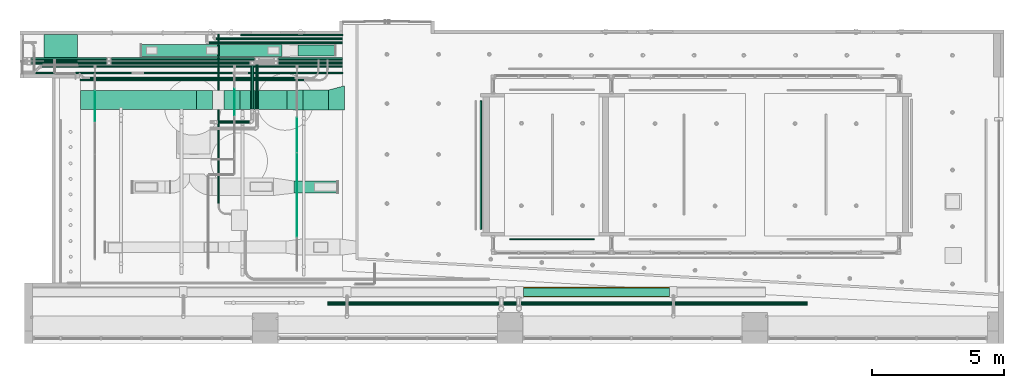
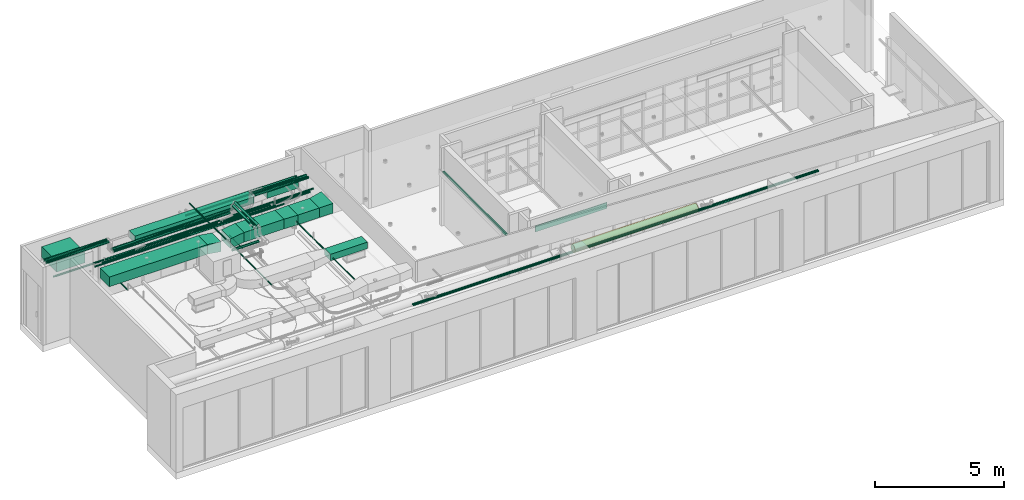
# One storey, part 31 of 108: 23 pipe segments, 7 duct segments, 6 cable carrier segments, 4 duct fittings, 1 air terminal, 1 covering, 1 light fixture.
"""IFC4 building model written with IfcOpenShell, lengths in feet."""

from ifc_helpers import new_model, entity, si_unit, converted_unit, derived_unit, direction, frame, frame_2d, origin, origin_2d_with_axis, place, context, subcontext, project, spatial, polyline, rectangle, circle, outline, extrude, source, transform, mapped, material, constituent, constituent_set, type_object, type_shapes, element, aggregate, save


model = new_model("IFC4")

# Units and contexts
model_context = context("Model", 3, precision=0.0001, world=origin(), true_north=direction((6.12303176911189e-17, 1.0)))
body_context = subcontext(model_context, "Body", "Model", "MODEL_VIEW")
ifc_project = project(units=[converted_unit("LENGTHUNIT", "FOOT", entity("IfcRatioMeasure", 0.3048), si_unit("LENGTHUNIT", "METRE"), dimensions=[1, 0, 0, 0, 0, 0, 0]), converted_unit("AREAUNIT", "SQUARE FOOT", entity("IfcRatioMeasure", 0.09290304), si_unit("AREAUNIT", "SQUARE_METRE"), dimensions=[2, 0, 0, 0, 0, 0, 0]), converted_unit("VOLUMEUNIT", "CUBIC FOOT", entity("IfcRatioMeasure", 0.028316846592), si_unit("VOLUMEUNIT", "CUBIC_METRE"), dimensions=[3, 0, 0, 0, 0, 0, 0]), converted_unit("PLANEANGLEUNIT", "DEGREE", entity("IfcRatioMeasure", 0.0174532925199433), si_unit("PLANEANGLEUNIT", "RADIAN"), dimensions=[0, 0, 0, 0, 0, 0, 0]), si_unit("MASSUNIT", "GRAM", prefix="KILO"), derived_unit("MASSDENSITYUNIT", [(si_unit("MASSUNIT", "GRAM", prefix="KILO"), 1), (si_unit("LENGTHUNIT", "METRE"), -3)]), si_unit("TIMEUNIT", "SECOND"), si_unit("FREQUENCYUNIT", "HERTZ"), si_unit("THERMODYNAMICTEMPERATUREUNIT", "DEGREE_CELSIUS"), derived_unit("THERMALTRANSMITTANCEUNIT", [(si_unit("MASSUNIT", "GRAM", prefix="KILO"), 1), (si_unit("THERMODYNAMICTEMPERATUREUNIT", "KELVIN"), -1), (si_unit("TIMEUNIT", "SECOND"), -3)]), derived_unit("VOLUMETRICFLOWRATEUNIT", [(si_unit("LENGTHUNIT", "METRE"), 3), (si_unit("TIMEUNIT", "SECOND"), -1)]), si_unit("ELECTRICCURRENTUNIT", "AMPERE"), si_unit("ELECTRICVOLTAGEUNIT", "VOLT"), si_unit("POWERUNIT", "WATT"), si_unit("FORCEUNIT", "NEWTON"), si_unit("ILLUMINANCEUNIT", "LUX"), si_unit("LUMINOUSFLUXUNIT", "LUMEN"), si_unit("LUMINOUSINTENSITYUNIT", "CANDELA"), derived_unit("USERDEFINED", [(si_unit("MASSUNIT", "GRAM", prefix="KILO"), -1), (si_unit("LENGTHUNIT", "METRE"), -2), (si_unit("TIMEUNIT", "SECOND"), 3), (si_unit("LUMINOUSFLUXUNIT", "LUMEN"), 1)]), derived_unit("LINEARVELOCITYUNIT", [(si_unit("LENGTHUNIT", "METRE"), 1), (si_unit("TIMEUNIT", "SECOND"), -1)]), si_unit("PRESSUREUNIT", "PASCAL"), derived_unit("USERDEFINED", [(si_unit("LENGTHUNIT", "METRE"), -2), (si_unit("MASSUNIT", "GRAM", prefix="KILO"), 1), (si_unit("TIMEUNIT", "SECOND"), -2)])], contexts=[model_context])

# Covering
site_placement = place(None, origin())
building_placement = place(site_placement, origin())
storey_placement = place(building_placement, frame((0.0, 0.0, 168.0)))
covering_placement = place(storey_placement, frame((2.31025946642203, -17.3700330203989, 8.71351616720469)))
covering = element("IfcCovering", 1, at=covering_placement, Name="Pipe Insulation:Default", ObjectType="Pipe Insulation:Default", PredefinedType="INSULATION", context=body_context, shape_type="SweptSolid", body=[
    extrude(circle(Radius=0.614583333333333, at=frame_2d((0.0, 2.8421709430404e-14), x_axis=(1.0, 0.0))), frame((0.0, 0.619817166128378, 0.619817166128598), z_axis=(1.0, 0.0, 0.0), x_axis=(0.0, 1.0, 0.0)), (0.0, 0.0, 1.0), 18.10328125),
])

# Site, building, storey
site = spatial("IfcSite", under=ifc_project, at=site_placement, Name="Default", CompositionType="ELEMENT")
building = spatial("IfcBuilding", under=site, at=building_placement, CompositionType="ELEMENT")
storey = spatial("IfcBuildingStorey", under=building, at=storey_placement, Name="Level 15", CompositionType="ELEMENT", Elevation=168.0)

# Light fixture
ifc_material_1 = material(Name="Glass, White, High Luminance", Category="Glass")
ifc_constituent_1 = constituent(ifc_material_1, Name="Glass, White, High Luminance", Category="Materials")
ifc_material_2 = material(Name="Steel, Paint Finish, Ivory, Glossy", Category="Metal")
ifc_constituent_2 = constituent(ifc_material_2, Name="Steel, Paint Finish, Ivory, Glossy", Category="Materials")
ifc_constituent_set_1 = constituent_set(constituents=[ifc_constituent_1, ifc_constituent_2], Name="MaterialConstituentSet")
ifc_constituent_3 = constituent(ifc_material_1, Name="Glass, White, High Luminance", Category="Materials")
ifc_constituent_4 = constituent(ifc_material_2, Name="Steel, Paint Finish, Ivory, Glossy", Category="Materials")
ifc_constituent_set_2 = constituent_set(constituents=[ifc_constituent_3, ifc_constituent_4], Name="MaterialConstituentSet")
light_fixture_type = type_object("IfcLightFixtureType", Name="16'", PredefinedType="NOTDEFINED", material=ifc_constituent_set_2)
shared_shape_1 = source(origin(), body_context, "Body", "SweptSolid", [
    extrude(rectangle(XDim=15.9166666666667, YDim=0.166666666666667, at=origin_2d_with_axis()), frame((8.0, 0.124999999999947, 0.0), z_axis=(0.0, 0.0, 1.0), x_axis=(-1.0, 0.0, 0.0)), (0.0, 0.0, 1.0), 0.0208333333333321),
    extrude(outline(polyline([(-8.0, -0.125000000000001), (8.0, -0.125000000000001), (8.0, 0.125000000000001), (-8.0, 0.125000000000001), (-8.0, -0.125000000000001)]), holes=[polyline([(-7.95833333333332, -0.0833333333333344), (-7.95833333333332, 0.0833333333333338), (7.95833333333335, 0.0833333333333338), (7.95833333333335, -0.0833333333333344), (-7.95833333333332, -0.0833333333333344)])]), frame((8.0, 0.125000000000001, 0.0), z_axis=(0.0, 0.0, 1.0), x_axis=(-1.0, 0.0, 0.0)), (0.0, 0.0, 1.0), 0.291666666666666),
])
type_shapes(light_fixture_type, [shared_shape_1])
light_fixture_placement = place(storey_placement, frame((-2.83510993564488, -9.02036220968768, 8.5), z_axis=(0.0, 0.0, 1.0), x_axis=(0.0, 1.0, 0.0)))
element("IfcLightFixture", 2, at=light_fixture_placement, inside=storey, type_object=light_fixture_type, material=ifc_constituent_set_1, Name="Ceiling Light - Linear Box:16'", ObjectType="Ceiling Light - Linear Box:16'", PredefinedType="NOTDEFINED", context=body_context, shape_type="MappedRepresentation", body=[
    mapped(shared_shape_1, transform((0.0, 0.0, 0.0), scale=1.0)),
])

# Duct segments
duct_segment_type = type_object("IfcDuctSegmentType", Name="Rectangular Duct:Square Throat Elbows / S&D", PredefinedType="NOTDEFINED")
duct_segment_1_placement = place(storey_placement, frame((-26.1423457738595, -4.48329294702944, 9.91666666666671)))
element("IfcDuctSegment", 3, at=duct_segment_1_placement, inside=storey, type_object=duct_segment_type, Name="Rectangular Duct:Square Throat Elbows / S&D", ObjectType="Rectangular Duct:Square Throat Elbows / S&D", PredefinedType="NOTDEFINED", context=body_context, shape_type="SweptSolid", body=[
    extrude(rectangle(XDim=5.40534840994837, YDim=1.5, at=frame_2d((0.0, 2.22044604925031e-16), x_axis=(1.0, 0.0))), frame((2.70267420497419, 0.750000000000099, 0.0)), (0.0, 0.0, 1.0), 1.0),
])
duct_segment_2_placement = place(storey_placement, frame((-25.6133537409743, 12.5262257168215, 9.0833333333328)))
element("IfcDuctSegment", 4, at=duct_segment_2_placement, inside=storey, type_object=duct_segment_type, Name="Rectangular Duct:Square Throat Elbows / S&D", ObjectType="Rectangular Duct:Square Throat Elbows / S&D", PredefinedType="NOTDEFINED", context=body_context, shape_type="SweptSolid", body=[
    extrude(rectangle(XDim=4.58416666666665, YDim=1.33333333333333, at=frame_2d((-1.77635683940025e-15, -1.77635683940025e-15), x_axis=(1.0, 0.0))), frame((2.29208333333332, 0.666666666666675, 0.0)), (0.0, 0.0, 1.0), 1.0),
])
duct_segment_3_placement = place(storey_placement, frame((-45.0291870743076, 12.4428923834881, 9.083333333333)))
element("IfcDuctSegment", 5, at=duct_segment_3_placement, inside=storey, type_object=duct_segment_type, Name="Rectangular Duct:Square Throat Elbows / S&D", ObjectType="Rectangular Duct:Square Throat Elbows / S&D", PredefinedType="NOTDEFINED", context=body_context, shape_type="SweptSolid", body=[
    extrude(rectangle(XDim=17.4158333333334, YDim=1.5, at=frame_2d((-1.77635683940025e-15, -8.88178419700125e-16), x_axis=(1.0, 0.0))), frame((8.70791666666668, 0.750000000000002, 0.0)), (0.0, 0.0, 1.0), 1.0),
])
duct_segment_4_placement = place(storey_placement, frame((-32.8315243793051, 5.8765573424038, 8.87500000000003)))
element("IfcDuctSegment", 6, at=duct_segment_4_placement, inside=storey, type_object=duct_segment_type, Name="Rectangular Duct:Square Throat Elbows / S&D", ObjectType="Rectangular Duct:Square Throat Elbows / S&D", PredefinedType="NOTDEFINED", context=body_context, shape_type="SweptSolid", body=[
    extrude(rectangle(XDim=5.8477178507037, YDim=2.33333333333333, at=frame_2d((-1.77635683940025e-15, 0.0), x_axis=(1.0, 0.0))), frame((2.92385892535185, 1.16666666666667, 0.0)), (0.0, 0.0, 1.0), 1.5),
])
duct_segment_5_placement = place(storey_placement, frame((-24.9838065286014, 5.79322400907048, 8.87499999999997)))
element("IfcDuctSegment", 7, at=duct_segment_5_placement, inside=storey, type_object=duct_segment_type, Name="Rectangular Duct:Square Throat Elbows / S&D", ObjectType="Rectangular Duct:Square Throat Elbows / S&D", PredefinedType="NOTDEFINED", context=body_context, shape_type="SweptSolid", body=[
    extrude(rectangle(XDim=3.1456331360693, YDim=2.5, at=frame_2d((1.77635683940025e-15, 0.0), x_axis=(1.0, 0.0))), frame((1.57281656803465, 1.25000000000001, 0.0)), (0.0, 0.0, 1.0), 1.5),
])
duct_segment_6_placement = place(storey_placement, frame((-52.6148461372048, 5.87655734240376, 8.875)))
element("IfcDuctSegment", 8, at=duct_segment_6_placement, inside=storey, type_object=duct_segment_type, Name="Rectangular Duct:Square Throat Elbows / S&D", ObjectType="Rectangular Duct:Square Throat Elbows / S&D", PredefinedType="NOTDEFINED", context=body_context, shape_type="SweptSolid", body=[
    extrude(rectangle(XDim=14.3980481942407, YDim=2.33333333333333, at=frame_2d((-3.5527136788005e-15, 0.0), x_axis=(1.0, 0.0))), frame((7.19902409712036, 1.16666666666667, 0.0)), (0.0, 0.0, 1.0), 1.5),
])
duct_segment_7_placement = place(storey_placement, frame((-57.1431808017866, 11.4209780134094, 9.37500000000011)))
element("IfcDuctSegment", 9, at=duct_segment_7_placement, inside=storey, type_object=duct_segment_type, Name="Rectangular Duct:Square Throat Elbows / S&D", ObjectType="Rectangular Duct:Square Throat Elbows / S&D", PredefinedType="NOTDEFINED", context=body_context, shape_type="SweptSolid", body=[
    extrude(rectangle(XDim=3.78062976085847, YDim=4.16666666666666, at=frame_2d((-8.88178419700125e-16, -3.5527136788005e-15), x_axis=(1.0, 0.0))), frame((2.08333333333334, 1.89031488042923, 0.0), z_axis=(0.0, 0.0, 1.0), x_axis=(0.0, -1.0, 0.0)), (0.0, 0.0, 1.0), 1.66666666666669),
])

# Pipe segments
pipe_segment_type_1 = type_object("IfcPipeSegmentType", Name="Pipe Types:Fire Prot Sched 10 Main", PredefinedType="NOTDEFINED")
pipe_segment_1_placement = place(storey_placement, frame((-25.594055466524, 11.0632337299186, 8.84893283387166)))
element("IfcPipeSegment", 10, at=pipe_segment_1_placement, inside=storey, type_object=pipe_segment_type_1, Name="Pipe Types:Fire Prot Sched 10 Main", ObjectType="Pipe Types:Fire Prot Sched 10 Main", PredefinedType="NOTDEFINED", context=body_context, shape_type="SweptSolid", body=[
    extrude(circle(Radius=0.145833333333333, at=frame_2d((0.0, 2.8421709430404e-14), x_axis=(1.0, 0.0))), frame((0.0, 0.151067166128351, 0.151067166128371), z_axis=(1.0, 0.0, 0.0), x_axis=(0.0, -1.0, 0.0)), (0.0, 0.0, 1.0), 5.50588207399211),
])
pipe_segment_2_placement = place(storey_placement, frame((-50.8574057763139, 4.40596683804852, 8.60664116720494)))
element("IfcPipeSegment", 11, at=pipe_segment_2_placement, inside=storey, type_object=pipe_segment_type_1, Name="Pipe Types:Fire Prot Sched 10 Main", ObjectType="Pipe Types:Fire Prot Sched 10 Main", PredefinedType="NOTDEFINED", context=body_context, shape_type="SweptSolid", body=[
    extrude(circle(Radius=0.0547916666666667, at=frame_2d((-8.19688726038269e-43, -2.8421709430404e-14), x_axis=(1.0, 0.0))), frame((0.0600254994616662, 0.0, 0.0600254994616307), z_axis=(0.0, 1.0, 0.0), x_axis=(1.0, 0.0, 0.0)), (0.0, 0.0, 1.0), 3.79924479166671),
])
pipe_segment_3_placement = place(storey_placement, frame((-57.3333965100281, 11.0632337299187, 8.84893283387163)))
element("IfcPipeSegment", 12, at=pipe_segment_3_placement, inside=storey, type_object=pipe_segment_type_1, Name="Pipe Types:Fire Prot Sched 10 Main", ObjectType="Pipe Types:Fire Prot Sched 10 Main", PredefinedType="NOTDEFINED", context=body_context, shape_type="SweptSolid", body=[
    extrude(circle(Radius=0.145833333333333, at=frame_2d((-1.03028696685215e-13, 0.0), x_axis=(1.0, 0.0))), frame((0.0, 0.151067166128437, 0.151067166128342), z_axis=(1.0, 0.0, 0.0), x_axis=(0.0, 1.0, 0.0)), (0.0, 0.0, 1.0), 6.36934956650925),
])
pipe_segment_4_placement = place(storey_placement, frame((-33.5674577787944, 5.13596450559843, 8.54414116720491)))
element("IfcPipeSegment", 13, at=pipe_segment_4_placement, inside=storey, type_object=pipe_segment_type_1, Name="Pipe Types:Fire Prot Sched 10 Main", ObjectType="Pipe Types:Fire Prot Sched 10 Main", PredefinedType="NOTDEFINED", context=body_context, shape_type="SweptSolid", body=[
    extrude(circle(Radius=0.0547916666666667, at=origin_2d_with_axis()), frame((0.0600254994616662, 0.0, 0.0600254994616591), z_axis=(0.0, 1.0, 0.0), x_axis=(1.0, 0.0, 0.0)), (0.0, 0.0, 1.0), 3.3400804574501),
])
pipe_segment_5_placement = place(storey_placement, frame((-25.8207476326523, 0.6234065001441, 10.1483078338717)))
element("IfcPipeSegment", 14, at=pipe_segment_5_placement, inside=storey, type_object=pipe_segment_type_1, Name="Pipe Types:Fire Prot Sched 10 Main", ObjectType="Pipe Types:Fire Prot Sched 10 Main", PredefinedType="NOTDEFINED", context=body_context, shape_type="SweptSolid", body=[
    extrude(circle(Radius=0.0547916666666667, at=origin_2d_with_axis()), frame((0.0600254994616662, 0.0, 0.0600254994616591), z_axis=(0.0, 1.0, 0.0), x_axis=(-1.0, 0.0, 0.0)), (0.0, 0.0, 1.0), 4.22972554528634),
])
pipe_segment_6_placement = place(storey_placement, frame((-25.8207476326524, -9.88853942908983, 10.1483078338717)))
element("IfcPipeSegment", 15, at=pipe_segment_6_placement, inside=storey, type_object=pipe_segment_type_1, Name="Pipe Types:Fire Prot Sched 10 Main", ObjectType="Pipe Types:Fire Prot Sched 10 Main", PredefinedType="NOTDEFINED", context=body_context, shape_type="SweptSolid", body=[
    extrude(circle(Radius=0.0547916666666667, at=frame_2d((-2.48689957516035e-14, -2.8421709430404e-14), x_axis=(1.0, 0.0))), frame((0.0600254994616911, 0.0, 0.0600254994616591), z_axis=(0.0, 1.0, 0.0), x_axis=(-1.0, 0.0, 0.0)), (0.0, 0.0, 1.0), 10.3019721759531),
])
pipe_segment_7_placement = place(storey_placement, frame((-50.6307136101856, 11.0632337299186, 8.84893283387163)))
element("IfcPipeSegment", 16, at=pipe_segment_7_placement, inside=storey, type_object=pipe_segment_type_1, Name="Pipe Types:Fire Prot Sched 10 Main", ObjectType="Pipe Types:Fire Prot Sched 10 Main", PredefinedType="NOTDEFINED", context=body_context, shape_type="SweptSolid", body=[
    extrude(circle(Radius=0.145833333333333, at=frame_2d((0.0, -2.8421709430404e-14), x_axis=(1.0, 0.0))), frame((0.0, 0.151067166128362, 0.151067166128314), z_axis=(1.0, 0.0, 0.0), x_axis=(0.0, -1.0, 0.0)), (0.0, 0.0, 1.0), 16.9566146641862),
])
pipe_segment_8_placement = place(storey_placement, frame((-33.3407656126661, 11.0632337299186, 8.84893283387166)))
element("IfcPipeSegment", 17, at=pipe_segment_8_placement, inside=storey, type_object=pipe_segment_type_1, Name="Pipe Types:Fire Prot Sched 10 Main", ObjectType="Pipe Types:Fire Prot Sched 10 Main", PredefinedType="NOTDEFINED", context=body_context, shape_type="SweptSolid", body=[
    extrude(circle(Radius=0.145833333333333, at=frame_2d((0.0, 2.8421709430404e-14), x_axis=(1.0, 0.0))), frame((0.0, 0.151067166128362, 0.151067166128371), z_axis=(1.0, 0.0, 0.0), x_axis=(0.0, -1.0, 0.0)), (0.0, 0.0, 1.0), 7.41337681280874),
])

# Duct fittings
duct_fitting_type_1 = type_object("IfcDuctFittingType", Name="Standard", PredefinedType="NOTDEFINED")
shared_shape_2 = source(origin(), body_context, "Body", "SweptSolid", [
    extrude(rectangle(XDim=0.00260416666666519, YDim=2.5, at=origin_2d_with_axis()), frame((1.99869791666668, 0.0, -0.750000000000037), z_axis=(0.0, 0.0, 1.0), x_axis=(-1.0, 0.0, 0.0)), (0.0, 0.0, 1.0), 1.5),
    extrude(rectangle(XDim=0.125, YDim=2.33333333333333, at=origin_2d_with_axis()), frame((0.0625000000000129, 0.0, -0.750000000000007), z_axis=(0.0, 0.0, 1.0), x_axis=(-1.0, 0.0, 0.0)), (0.0, 0.0, 1.0), 1.50000000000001),
    extrude(outline(polyline([(-0.990849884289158, -1.20713837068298), (0.883399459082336, -1.20713837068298), (0.98714469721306, 1.12388744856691), (-0.879694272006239, 1.29038929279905), (-0.990849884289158, -1.20713837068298)])), frame((1.0611979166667, 0.0, -0.75), z_axis=(0.0, 0.0, 1.0), x_axis=(-0.999011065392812, -0.0444622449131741, 0.0)), (0.0, 0.0, 1.0), 1.50000000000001),
])
type_shapes(duct_fitting_type_1, [shared_shape_2])
duct_fitting_1_placement = place(storey_placement, frame((-26.9838065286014, 7.04322400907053, 9.625)))
element("IfcDuctFitting", 18, at=duct_fitting_1_placement, inside=storey, type_object=duct_fitting_type_1, Name="Rectangular Length Eccentric Transition - DTL:Standard", ObjectType="Rectangular Length Eccentric Transition - DTL:Standard", PredefinedType="NOTDEFINED", context=body_context, shape_type="MappedRepresentation", body=[
    mapped(shared_shape_2, transform((0.0, 0.0, 0.0), scale=1.0)),
])
duct_fitting_type_2 = type_object("IfcDuctFittingType", Name="Standard", PredefinedType="NOTDEFINED")
shared_shape_3 = source(origin(), body_context, "Body", "SweptSolid", [
    extrude(rectangle(XDim=0.00260416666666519, YDim=2.5, at=origin_2d_with_axis()), frame((1.99869791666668, 0.249999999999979, -0.750000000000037), z_axis=(0.0, 0.0, 1.0), x_axis=(-1.0, 0.0, 0.0)), (0.0, 0.0, 1.0), 1.5),
    extrude(rectangle(XDim=0.125, YDim=3.0, at=origin_2d_with_axis()), frame((0.0625000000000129, 0.0, -0.750000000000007), z_axis=(0.0, 0.0, 1.0), x_axis=(-1.0, 0.0, 0.0)), (0.0, 0.0, 1.0), 1.50000000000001),
    extrude(outline(polyline([(-0.936197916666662, -1.375), (0.936197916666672, -1.375), (0.936197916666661, 1.625), (-0.936197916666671, 1.125), (-0.936197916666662, -1.375)])), frame((1.06119791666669, 0.124999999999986, -0.75), z_axis=(0.0, 0.0, 1.0), x_axis=(-1.0, 0.0, 0.0)), (0.0, 0.0, 1.0), 1.50000000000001),
])
type_shapes(duct_fitting_type_2, [shared_shape_3])
duct_fitting_2_placement = place(storey_placement, frame((-19.838173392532, 7.29322400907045, 9.62499999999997), z_axis=(0.0, 0.0, 1.0), x_axis=(-1.0, 0.0, 0.0)))
element("IfcDuctFitting", 19, at=duct_fitting_2_placement, inside=storey, type_object=duct_fitting_type_2, Name="Rectangular Length Eccentric Transition - DTL:Standard", ObjectType="Rectangular Length Eccentric Transition - DTL:Standard", PredefinedType="NOTDEFINED", context=body_context, shape_type="MappedRepresentation", body=[
    mapped(shared_shape_3, transform((0.0, 0.0, 0.0), scale=1.0)),
])

# Cable carrier segments
cable_carrier_segment_type = type_object("IfcCableCarrierSegmentType", Name="Conduit with Fittings:Conduit", PredefinedType="NOTDEFINED")
cable_carrier_segment_1_placement = place(storey_placement, frame((-35.5588539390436, -5.76806562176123, 10.0803078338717)))
element("IfcCableCarrierSegment", 20, at=cable_carrier_segment_1_placement, inside=storey, type_object=cable_carrier_segment_type, Name="Conduit with Fittings:Conduit", ObjectType="Conduit with Fittings:Conduit", PredefinedType="NOTDEFINED", context=body_context, shape_type="SweptSolid", body=[
    extrude(circle(Radius=0.0915416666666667, at=origin_2d_with_axis()), frame((0.0967754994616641, 0.0, 0.0967754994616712), z_axis=(0.0, 1.0, 0.0), x_axis=(1.0, 0.0, 0.0)), (0.0, 0.0, 1.0), 20.9696733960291),
])
cable_carrier_segment_2_placement = place(storey_placement, frame((-32.7537451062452, 15.0132906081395, 8.90322450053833)))
element("IfcCableCarrierSegment", 21, at=cable_carrier_segment_2_placement, inside=storey, type_object=cable_carrier_segment_type, Name="Conduit with Fittings:Conduit", ObjectType="Conduit with Fittings:Conduit", PredefinedType="NOTDEFINED", context=body_context, shape_type="SweptSolid", body=[
    extrude(circle(Radius=0.0915416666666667, at=origin_2d_with_axis()), frame((0.0, 0.0967754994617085, 0.0967754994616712), z_axis=(1.0, 0.0, 0.0), x_axis=(0.0, -1.0, 0.0)), (0.0, 0.0, 1.0), 12.6655717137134),
])
cable_carrier_segment_3_placement = place(storey_placement, frame((-51.4517793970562, 9.67330486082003, 9.71572450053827)))
element("IfcCableCarrierSegment", 22, at=cable_carrier_segment_3_placement, inside=storey, type_object=cable_carrier_segment_type, Name="Conduit with Fittings:Conduit", ObjectType="Conduit with Fittings:Conduit", PredefinedType="NOTDEFINED", context=body_context, shape_type="SweptSolid", body=[
    extrude(circle(Radius=0.0915416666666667, at=origin_2d_with_axis()), frame((0.0, 0.0967754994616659, 0.0967754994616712), z_axis=(1.0, 0.0, 0.0), x_axis=(0.0, 1.0, 0.0)), (0.0, 0.0, 1.0), 25.4488223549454),
])
cable_carrier_segment_4_placement = place(storey_placement, frame((-52.6148461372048, 9.42330486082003, 9.71572450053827)))
element("IfcCableCarrierSegment", 23, at=cable_carrier_segment_4_placement, inside=storey, type_object=cable_carrier_segment_type, Name="Conduit with Fittings:Conduit", ObjectType="Conduit with Fittings:Conduit", PredefinedType="NOTDEFINED", context=body_context, shape_type="SweptSolid", body=[
    extrude(circle(Radius=0.0915416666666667, at=origin_2d_with_axis()), frame((0.0, 0.0967754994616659, 0.0967754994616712), z_axis=(1.0, 0.0, 0.0), x_axis=(0.0, 1.0, 0.0)), (0.0, 0.0, 1.0), 27.736889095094),
])
for number, where, name in (
    (24, (-21.9549402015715, -18.3610399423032, 9.85114116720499), "Conduit with Fittings:Conduit"),
    (25, (-21.9549402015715, -18.1527066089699, 9.85114116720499), "Conduit with Fittings:Conduit"),
):
    element("IfcCableCarrierSegment", number, at=place(storey_placement, frame(where)), inside=storey, type_object=cable_carrier_segment_type, Name=name, ObjectType="Conduit with Fittings:Conduit", PredefinedType="NOTDEFINED", context=body_context, shape_type="SweptSolid", body=[
        extrude(circle(Radius=0.0915416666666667, at=origin_2d_with_axis()), frame((0.0, 0.0967754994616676, 0.0967754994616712), z_axis=(1.0, 0.0, 0.0), x_axis=(0.0, 1.0, 0.0)), (0.0, 0.0, 1.0), 59.4166666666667),
    ])

# Duct fittings
duct_fitting_type_3 = type_object("IfcDuctFittingType", Name="Standard", PredefinedType="NOTDEFINED")
shared_shape_4 = source(origin(), body_context, "Body", "SweptSolid", [
    extrude(rectangle(XDim=0.00260416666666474, YDim=2.33333333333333, at=origin_2d_with_axis()), frame((1.99869791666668, 0.0, -1.04166666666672), z_axis=(0.0, 0.0, 1.0), x_axis=(-1.0, 0.0, 0.0)), (0.0, 0.0, 1.0), 1.5),
    extrude(rectangle(XDim=0.125, YDim=2.33333333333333, at=origin_2d_with_axis()), frame((0.0625000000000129, 0.0, -0.750000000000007), z_axis=(0.0, 0.0, 1.0), x_axis=(-1.0, 0.0, 0.0)), (0.0, 0.0, 1.0), 1.50000000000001),
    extrude(outline(polyline([(-1.06292499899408, -0.741062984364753), (0.83205141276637, -0.741062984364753), (1.06292499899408, 0.741062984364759), (-0.83205141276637, 0.741062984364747), (-1.06292499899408, -0.741062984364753)])), frame((1.0611979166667, -1.16666666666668, -0.14583333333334), z_axis=(0.0, 1.0, 0.0), x_axis=(-0.988083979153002, 0.0, 0.153915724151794)), (0.0, 0.0, 1.0), 2.33333333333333),
])
type_shapes(duct_fitting_type_3, [shared_shape_4])
duct_fitting_3_placement = place(storey_placement, frame((-38.2167979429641, 7.04322400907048, 9.62500000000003)))
element("IfcDuctFitting", 26, at=duct_fitting_3_placement, inside=storey, type_object=duct_fitting_type_3, Name="Rectangular Length Eccentric Transition - DTL:Standard", ObjectType="Rectangular Length Eccentric Transition - DTL:Standard", PredefinedType="NOTDEFINED", context=body_context, shape_type="MappedRepresentation", body=[
    mapped(shared_shape_4, transform((0.0, 0.0, 0.0), scale=1.0)),
])
duct_fitting_4_placement = place(storey_placement, frame((-32.831524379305, 7.04322400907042, 9.62500000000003), z_axis=(0.0, 0.0, 1.0), x_axis=(-1.0, 0.0, 0.0)))
element("IfcDuctFitting", 27, at=duct_fitting_4_placement, inside=storey, type_object=duct_fitting_type_3, Name="Rectangular Length Eccentric Transition - DTL:Standard", ObjectType="Rectangular Length Eccentric Transition - DTL:Standard", PredefinedType="NOTDEFINED", context=body_context, shape_type="MappedRepresentation", body=[
    mapped(shared_shape_4, transform((0.0, 0.0, 0.0), scale=1.0)),
])

# Pipe segments
pipe_segment_type_2 = type_object("IfcPipeSegmentType", Name="Pipe Types:Hydronic", PredefinedType="NOTDEFINED")
pipe_segment_9_placement = place(storey_placement, frame((-58.6401633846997, 11.9370127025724, 11.057266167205)))
element("IfcPipeSegment", 28, at=pipe_segment_9_placement, inside=storey, type_object=pipe_segment_type_2, Name="Pipe Types:Hydronic", ObjectType="Pipe Types:Hydronic", PredefinedType="NOTDEFINED", context=body_context, shape_type="SweptSolid", body=[
    extrude(circle(Radius=0.1875, at=frame_2d((3.5527136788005e-15, 0.0), x_axis=(1.0, 0.0))), frame((0.0, 0.192733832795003, 0.192733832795), z_axis=(1.0, 0.0, 0.0), x_axis=(0.0, 1.0, 0.0)), (0.0, 0.0, 1.0), 9.25207390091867),
])
pipe_segment_10_placement = place(storey_placement, frame((-28.0536659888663, 11.9370127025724, 10.807266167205)))
element("IfcPipeSegment", 29, at=pipe_segment_10_placement, inside=storey, type_object=pipe_segment_type_2, Name="Pipe Types:Hydronic", ObjectType="Pipe Types:Hydronic", PredefinedType="NOTDEFINED", context=body_context, shape_type="SweptSolid", body=[
    extrude(circle(Radius=0.1875, at=origin_2d_with_axis()), frame((0.0, 0.192733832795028, 0.192733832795), z_axis=(1.0, 0.0, 0.0), x_axis=(0.0, -1.0, 0.0)), (0.0, 0.0, 1.0), 7.96549259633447),
])
pipe_segment_11_placement = place(storey_placement, frame((-44.704303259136, 10.3276273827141, 9.697891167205)))
element("IfcPipeSegment", 30, at=pipe_segment_11_placement, inside=storey, type_object=pipe_segment_type_2, Name="Pipe Types:Hydronic", ObjectType="Pipe Types:Hydronic", PredefinedType="NOTDEFINED", context=body_context, shape_type="SweptSolid", body=[
    extrude(circle(Radius=0.0885416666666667, at=origin_2d_with_axis()), frame((0.0, 0.0937754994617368, 0.0937754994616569), z_axis=(1.0, 0.0, 0.0), x_axis=(0.0, -1.0, 0.0)), (0.0, 0.0, 1.0), 10.9296722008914),
])
pipe_segment_12_placement = place(storey_placement, frame((-58.1865373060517, 10.3276273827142, 9.572891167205)))
element("IfcPipeSegment", 31, at=pipe_segment_12_placement, inside=storey, type_object=pipe_segment_type_2, Name="Pipe Types:Hydronic", ObjectType="Pipe Types:Hydronic", PredefinedType="NOTDEFINED", context=body_context, shape_type="SweptSolid", body=[
    extrude(circle(Radius=0.0885416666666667, at=origin_2d_with_axis()), frame((0.0, 0.0937754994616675, 0.0937754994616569), z_axis=(1.0, 0.0, 0.0), x_axis=(0.0, -1.0, 0.0)), (0.0, 0.0, 1.0), 11.9170530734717),
])
pipe_segment_13_placement = place(storey_placement, frame((-31.8130182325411, 10.3276273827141, 9.8645578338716)))
element("IfcPipeSegment", 32, at=pipe_segment_13_placement, inside=storey, type_object=pipe_segment_type_2, Name="Pipe Types:Hydronic", ObjectType="Pipe Types:Hydronic", PredefinedType="NOTDEFINED", context=body_context, shape_type="SweptSolid", body=[
    extrude(circle(Radius=0.0885416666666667, at=origin_2d_with_axis()), frame((0.0, 0.0937754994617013, 0.0937754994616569), z_axis=(1.0, 0.0, 0.0), x_axis=(0.0, -1.0, 0.0)), (0.0, 0.0, 1.0), 11.7248448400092),
])
pipe_segment_14_placement = place(storey_placement, frame((-58.6401633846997, 11.4370127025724, 11.057266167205)))
element("IfcPipeSegment", 33, at=pipe_segment_14_placement, inside=storey, type_object=pipe_segment_type_2, Name="Pipe Types:Hydronic", ObjectType="Pipe Types:Hydronic", PredefinedType="NOTDEFINED", context=body_context, shape_type="SweptSolid", body=[
    extrude(circle(Radius=0.1875, at=frame_2d((1.77635683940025e-15, 0.0), x_axis=(1.0, 0.0))), frame((0.0, 0.192733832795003, 0.192733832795), z_axis=(1.0, 0.0, 0.0), x_axis=(0.0, 1.0, 0.0)), (0.0, 0.0, 1.0), 9.25207390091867),
])
pipe_segment_15_placement = place(storey_placement, frame((-28.0536659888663, 11.4370127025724, 10.807266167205)))
element("IfcPipeSegment", 34, at=pipe_segment_15_placement, inside=storey, type_object=pipe_segment_type_2, Name="Pipe Types:Hydronic", ObjectType="Pipe Types:Hydronic", PredefinedType="NOTDEFINED", context=body_context, shape_type="SweptSolid", body=[
    extrude(circle(Radius=0.1875, at=origin_2d_with_axis()), frame((0.0, 0.192733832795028, 0.192733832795), z_axis=(1.0, 0.0, 0.0), x_axis=(0.0, -1.0, 0.0)), (0.0, 0.0, 1.0), 7.96549259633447),
])
pipe_segment_16_placement = place(storey_placement, frame((-30.9087492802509, 5.94789023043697, 10.4739328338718)))
element("IfcPipeSegment", 35, at=pipe_segment_16_placement, inside=storey, type_object=pipe_segment_type_2, Name="Pipe Types:Hydronic", ObjectType="Pipe Types:Hydronic", PredefinedType="NOTDEFINED", context=body_context, shape_type="SweptSolid", body=[
    extrude(circle(Radius=0.1875, at=origin_2d_with_axis()), frame((0.192733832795, 0.0, 0.192733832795), z_axis=(0.0, 1.0, 0.0), x_axis=(1.0, 0.0, 0.0)), (0.0, 0.0, 1.0), 5.86391359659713),
])
pipe_segment_17_placement = place(storey_placement, frame((-48.7490400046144, 11.9370127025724, 9.34893283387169)))
element("IfcPipeSegment", 36, at=pipe_segment_17_placement, inside=storey, type_object=pipe_segment_type_2, Name="Pipe Types:Hydronic", ObjectType="Pipe Types:Hydronic", PredefinedType="NOTDEFINED", context=body_context, shape_type="SweptSolid", body=[
    extrude(circle(Radius=0.1875, at=frame_2d((1.77635683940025e-15, 0.0), x_axis=(1.0, 0.0))), frame((0.0, 0.192733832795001, 0.192733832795), z_axis=(1.0, 0.0, 0.0), x_axis=(0.0, -1.0, 0.0)), (0.0, 0.0, 1.0), 17.7160584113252),
])
pipe_segment_18_placement = place(storey_placement, frame((-35.5189716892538, 4.12154962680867, 9.34893283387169)))
element("IfcPipeSegment", 37, at=pipe_segment_18_placement, inside=storey, type_object=pipe_segment_type_2, Name="Pipe Types:Hydronic", ObjectType="Pipe Types:Hydronic", PredefinedType="NOTDEFINED", context=body_context, shape_type="SweptSolid", body=[
    extrude(circle(Radius=0.1875, at=frame_2d((-9.76996261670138e-15, 0.0), x_axis=(1.0, 0.0))), frame((0.0, 0.192733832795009, 0.192733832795), z_axis=(1.0, 0.0, 0.0), x_axis=(0.0, 1.0, 0.0)), (0.0, 0.0, 1.0), 3.90168020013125),
])
pipe_segment_19_placement = place(storey_placement, frame((-31.4920826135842, 5.94789023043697, 10.4739328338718)))
element("IfcPipeSegment", 38, at=pipe_segment_19_placement, inside=storey, type_object=pipe_segment_type_2, Name="Pipe Types:Hydronic", ObjectType="Pipe Types:Hydronic", PredefinedType="NOTDEFINED", context=body_context, shape_type="SweptSolid", body=[
    extrude(circle(Radius=0.1875, at=origin_2d_with_axis()), frame((0.192733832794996, 0.0, 0.192733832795), z_axis=(0.0, 1.0, 0.0), x_axis=(1.0, 0.0, 0.0)), (0.0, 0.0, 1.0), 5.36391359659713),
])
pipe_segment_20_placement = place(storey_placement, frame((-48.7490400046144, 11.4370127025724, 9.34893283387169)))
element("IfcPipeSegment", 39, at=pipe_segment_20_placement, inside=storey, type_object=pipe_segment_type_2, Name="Pipe Types:Hydronic", ObjectType="Pipe Types:Hydronic", PredefinedType="NOTDEFINED", context=body_context, shape_type="SweptSolid", body=[
    extrude(circle(Radius=0.1875, at=origin_2d_with_axis()), frame((0.0, 0.192733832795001, 0.192733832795), z_axis=(1.0, 0.0, 0.0), x_axis=(0.0, -1.0, 0.0)), (0.0, 0.0, 1.0), 17.1327250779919),
])
pipe_segment_21_placement = place(storey_placement, frame((-35.7937735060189, 14.4906441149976, 9.18226616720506)))
element("IfcPipeSegment", 40, at=pipe_segment_21_placement, inside=storey, type_object=pipe_segment_type_2, Name="Pipe Types:Hydronic", ObjectType="Pipe Types:Hydronic", PredefinedType="NOTDEFINED", context=body_context, shape_type="SweptSolid", body=[
    extrude(circle(Radius=0.145833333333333, at=frame_2d((-1.24344978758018e-14, 0.0), x_axis=(1.0, 0.0))), frame((0.0, 0.151067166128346, 0.151067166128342), z_axis=(1.0, 0.0, 0.0), x_axis=(0.0, 1.0, 0.0)), (0.0, 0.0, 1.0), 15.705600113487),
])
pipe_segment_22_placement = place(storey_placement, frame((-36.6917967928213, 13.9906441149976, 9.18226616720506)))
element("IfcPipeSegment", 41, at=pipe_segment_22_placement, inside=storey, type_object=pipe_segment_type_2, Name="Pipe Types:Hydronic", ObjectType="Pipe Types:Hydronic", PredefinedType="NOTDEFINED", context=body_context, shape_type="SweptSolid", body=[
    extrude(circle(Radius=0.145833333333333, at=frame_2d((-1.4210854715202e-14, 0.0), x_axis=(1.0, 0.0))), frame((0.0, 0.151067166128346, 0.151067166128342), z_axis=(1.0, 0.0, 0.0), x_axis=(0.0, 1.0, 0.0)), (0.0, 0.0, 1.0), 16.6036234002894),
])

# Pipe segment
pipe_segment_23_placement = place(storey_placement, frame((2.31025946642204, -17.2866996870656, 8.79684950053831)))
pipe_segment_23 = element("IfcPipeSegment", 42, at=pipe_segment_23_placement, inside=storey, type_object=pipe_segment_type_2, Name="Pipe Types:Hydronic", ObjectType="Pipe Types:Hydronic", PredefinedType="NOTDEFINED", context=body_context, shape_type="SweptSolid", body=[
    extrude(circle(Radius=0.53125, at=origin_2d_with_axis()), frame((0.0, 0.536483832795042, 0.536483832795), z_axis=(1.0, 0.0, 0.0), x_axis=(0.0, -1.0, 0.0)), (0.0, 0.0, 1.0), 18.10328125),
])

aggregate(pipe_segment_23, [covering])

# Air terminal
air_terminal_type = type_object("IfcAirTerminalType", Name="10'-6\"", PredefinedType="NOTDEFINED")
shared_shape_5 = source(origin(), body_context, "Body", "SweptSolid", [
    extrude(rectangle(XDim=10.5, YDim=0.124999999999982, at=origin_2d_with_axis()), frame((0.0, 0.0, -0.916666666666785), z_axis=(0.0, 0.0, 1.0), x_axis=(-1.0, 0.0, 0.0)), (0.0, 0.0, 1.0), 0.916666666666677),
])
type_shapes(air_terminal_type, [shared_shape_5])
air_terminal_placement = place(storey_placement, frame((5.83870395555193, -10.175709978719, 8.5), z_axis=(0.0, 0.0, -1.0), x_axis=(1.0, 0.0, 0.0)))
element("IfcAirTerminal", 43, at=air_terminal_placement, inside=storey, type_object=air_terminal_type, Name="Supply Diffuser with Plenum - Linear Slot - Hosted:10'-6\"", ObjectType="Supply Diffuser with Plenum - Linear Slot - Hosted:10'-6\"", PredefinedType="NOTDEFINED", context=body_context, shape_type="MappedRepresentation", body=[
    mapped(shared_shape_5, transform((0.0, 0.0, 0.0), scale=1.0)),
])

save(model, "model.ifc")
